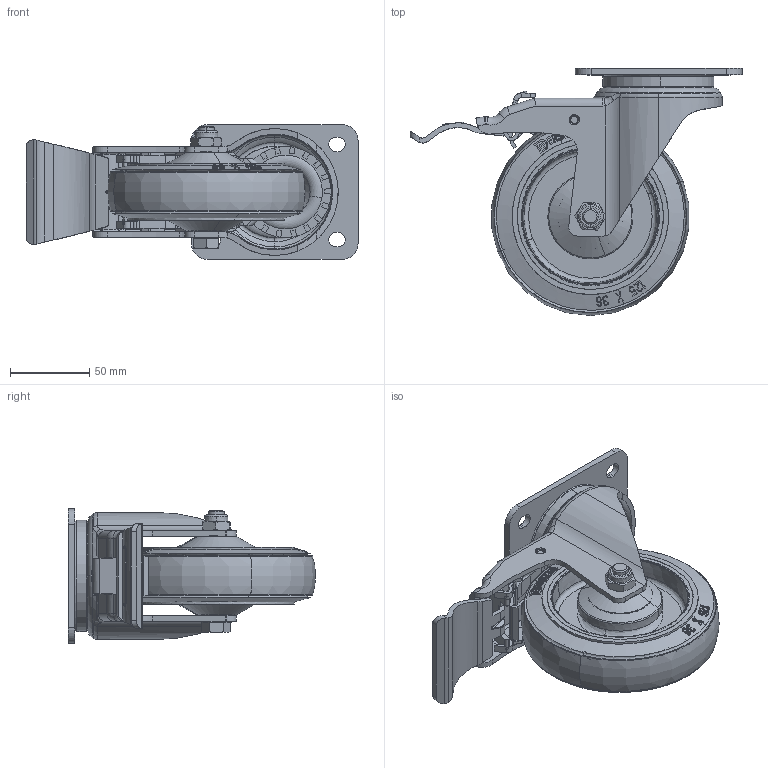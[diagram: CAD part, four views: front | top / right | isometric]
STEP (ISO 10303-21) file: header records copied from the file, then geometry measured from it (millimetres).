
FILE_DESCRIPTION (( 'STEP AP203' ), '1' );
FILE_NAME ('魂伢.STEP', '2025-12-05T10:37:19', ( '' ), ( '' ), 'SwSTEP 2.0', 'SolidWorks 2021', '' );
FILE_SCHEMA (( 'CONFIG_CONTROL_DESIGN' ));
Length unit declared in the file: millimetre
Products named in the file (14): ^_11510500074023(2)_11510500074023; 葩璃 (4) ^11510500074023(2)_11510500074023; 葩璃 (2) ^__11510500074023(2)_11510500074023; 魂伢; 葩璃 (3) ^葩璃 (4) _11510500074023(2)_11510500074023; 葩璃 (4) ^葩璃 (4) _11510500074023(2)_11510500074023; ^11510500074023(2)_11510500074023; 葩璃 (5) ^葩璃 (4) _11510500074023(2)_11510500074023; ^__11510500074023(2)_11510500074023; ^葩璃 (4) _11510500074023(2)_11510500074023; 葩璃 (2) ^葩璃 (4) _11510500074023(2)_11510500074023; 11510500074023(2)^11510500074023; 5寸弹力全效轮中宽50_預設; 葩璃 50_____W________A_O^11510500074023
Assembly tree (13 placements, depth 5):
  魂伢
    11510500074023(2)^11510500074023
      ^11510500074023(2)_11510500074023
        ^_11510500074023(2)_11510500074023
          ^__11510500074023(2)_11510500074023
          葩璃 (2) ^__11510500074023(2)_11510500074023
      葩璃 (4) ^11510500074023(2)_11510500074023
        ^葩璃 (4) _11510500074023(2)_11510500074023
        葩璃 (2) ^葩璃 (4) _11510500074023(2)_11510500074023
        葩璃 (3) ^葩璃 (4) _11510500074023(2)_11510500074023
        葩璃 (4) ^葩璃 (4) _11510500074023(2)_11510500074023
        葩璃 (5) ^葩璃 (4) _11510500074023(2)_11510500074023
    5寸弹力全效轮中宽50_預設
    葩璃 50_____W________A_O^11510500074023
Bounding box: 209.24 x 155.69 x 85 mm (x, y, z)
Volume: 155191.2 mm3; surface area: 220831.6 mm2
Topology: 56 solids, 71 shells, 1732 faces, 4670 edges, 2879 vertices
Faces by surface type: plane 688, bspline 432, cylinder 261, sphere 188, torus 111, cone 52
Entity records: 80947 total; most frequent: CARTESIAN_POINT 42320, ORIENTED_EDGE 8656, DIRECTION 6271, EDGE_CURVE 4330, VERTEX_POINT 2785, AXIS2_PLACEMENT_3D 2402, EDGE_LOOP 1819, ADVANCED_FACE 1732
